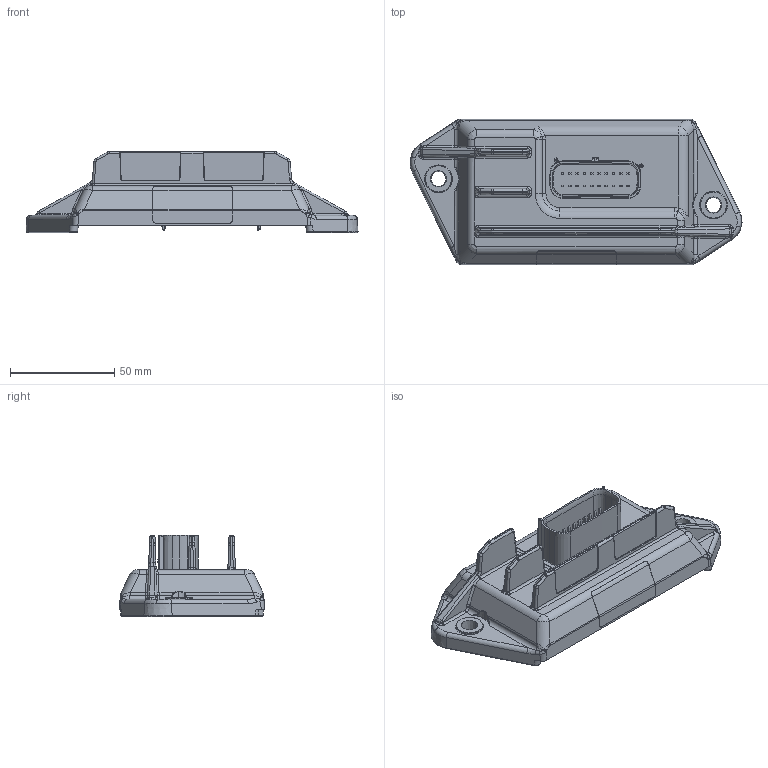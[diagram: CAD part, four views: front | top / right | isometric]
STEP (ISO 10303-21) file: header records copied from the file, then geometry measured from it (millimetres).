
FILE_DESCRIPTION(('STEP AP214'),'1');
FILE_NAME('1101B01R01.stp','2023-05-10T18:35:06',(' '),(' '),'Spatial InterOp 3D',' ',' ');
FILE_SCHEMA(('AUTOMOTIVE_DESIGN { 1 0 10303 214 1 1 1 1 }'));
Length unit declared in the file: metre
Products named in the file (1): Solid
Bounding box: 159.4 x 69.87 x 38.9 mm (x, y, z)
Volume: 141370.7 mm3; surface area: 36842.4 mm2
Topology: 1 solids, 1 shells, 1036 faces, 2392 edges, 1380 vertices
Faces by surface type: plane 336, cylinder 307, bspline 217, torus 79, sphere 49, cone 48
Entity records: 38200 total; most frequent: CARTESIAN_POINT 16054, ORIENTED_EDGE 4774, DIRECTION 4426, EDGE_CURVE 2387, AXIS2_PLACEMENT_3D 1654, VERTEX_POINT 1380, LINE 1118, VECTOR 1118
